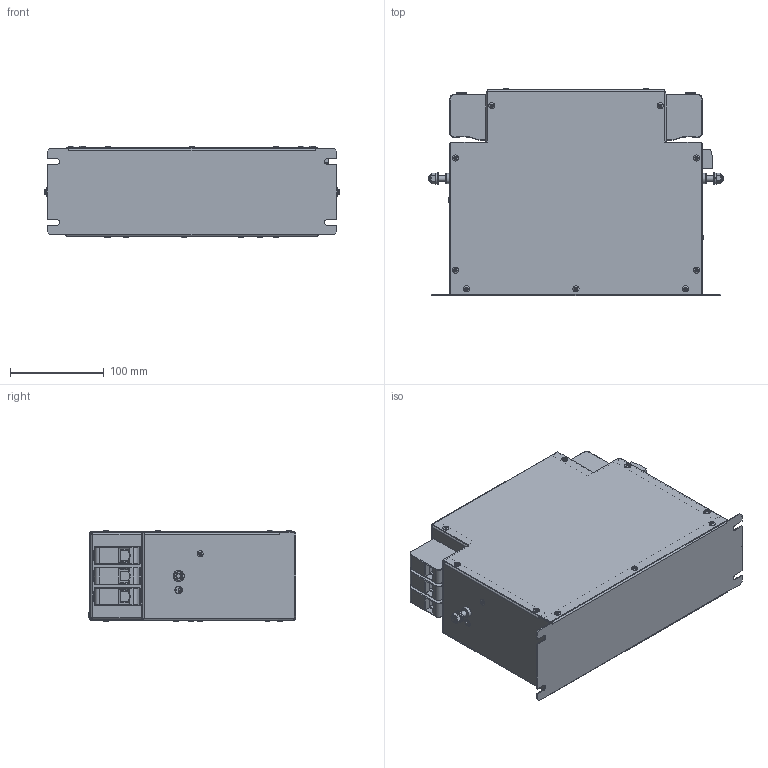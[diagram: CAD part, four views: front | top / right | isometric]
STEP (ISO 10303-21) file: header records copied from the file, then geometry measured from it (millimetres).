
FILE_DESCRIPTION(/* description */ ('raw material description'),/* implementation_level */ '2;1');
FILE_NAME(/* name */ 'C:\Users\Orhan.Eker\Desktop\FN3840-80-34.stp',/* time_stamp */ '2020-02-24T11:33:37+01:00',/* author */ ('orhan.eker'),/* organization */ ('Schaffner EMV AG'),/* preprocessor_version */ 'ST-DEVELOPER v16.5',/* originating_system */ 'Autodesk Inventor 2017',/* authorisation */ '');
FILE_SCHEMA (('AUTOMOTIVE_DESIGN { 1 0 10303 214 3 1 1 }'));
Products named in the file (1): Part1
Bounding box: 314.4 x 221.4 x 97.8 mm (x, y, z)
Volume: 489936.2 mm3; surface area: 465764 mm2
Topology: 1 solids, 1 shells, 2144 faces, 4976 edges, 2932 vertices
Faces by surface type: plane 985, cylinder 721, sphere 120, cone 118, bspline 112, torus 88
Full cylindrical faces by diameter (mm): 2 x22, 3.2 x22, 3.3 x13, 3.4 x22, 3.5 x22, 4 x2, 4.82 x4, 5 x4, 5.2 x22, 5.3 x4, 5.4 x4, 5.459 x2, 6 x4, 6.4 x2, 6.5 x22, 7 x12, 7.3 x2, 8 x4, 8.7 x2, 9.9 x2, 11.05 x2, 11.6 x6, 12 x2
Entity records: 62143 total; most frequent: CARTESIAN_POINT 12960, DIRECTION 10102, ORIENTED_EDGE 9110, EDGE_CURVE 4547, AXIS2_PLACEMENT_3D 3804, VERTEX_POINT 2906, EDGE_LOOP 2685, LINE 2494
